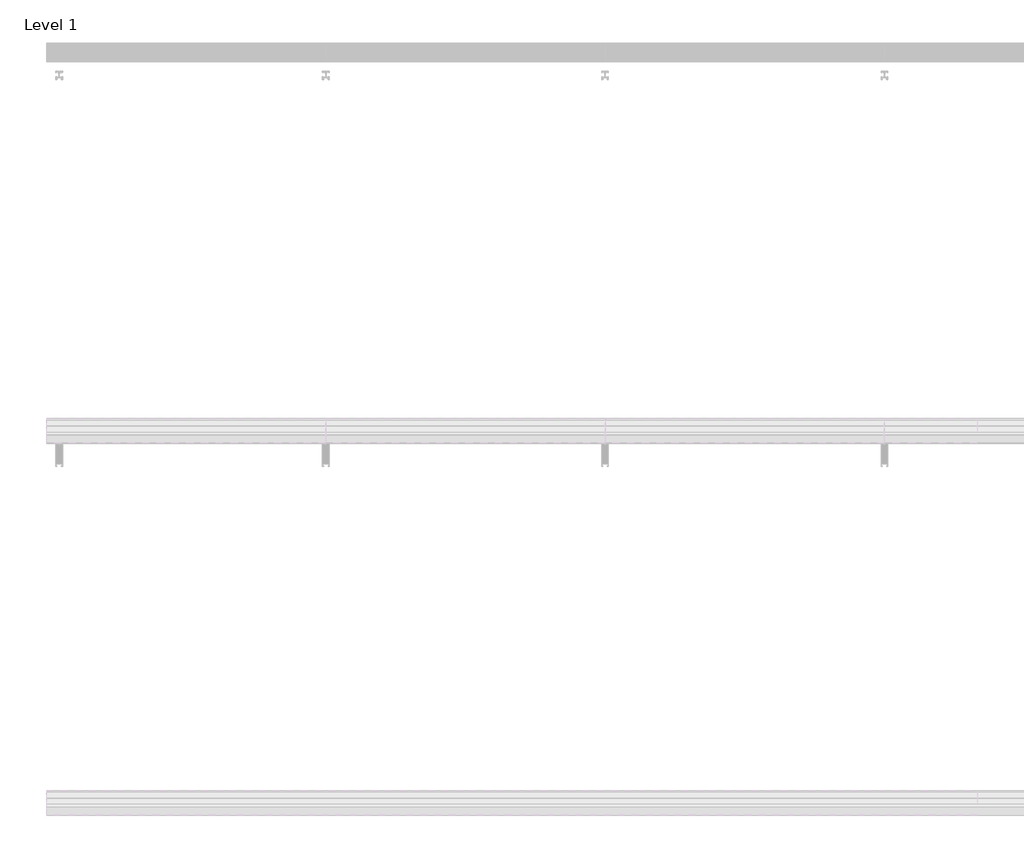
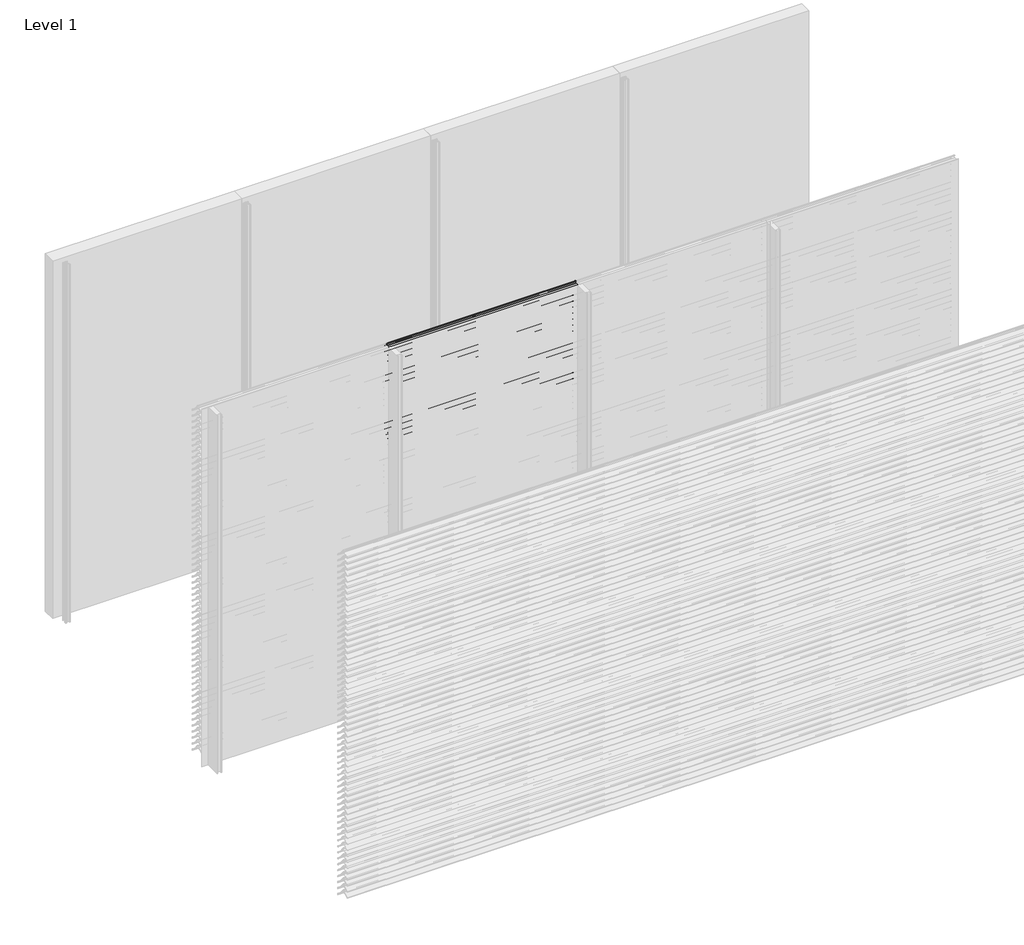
# One storey, part 27 of 173: 17 proxies.
"""IFC4 building model written with IfcOpenShell, lengths in millimetres."""

from ifc_helpers import new_model, si_unit, point, frame, frame_2d, origin, place, context, project, spatial, polyline, circle_curve, trimmed, segment, composite_curve, outline, extrude, element, save

model = new_model("IFC4")

# Units and contexts
model_context = context("Model", 3, world=origin())
ifc_project = project(units=[si_unit("LENGTHUNIT", "METRE", prefix="MILLI")], contexts=[model_context])

# Site, building, storey
site = spatial("IfcSite", under=ifc_project)
building = spatial("IfcBuilding", under=site)
storey = spatial("IfcBuildingStorey", under=building, Name="Level 1", Elevation=0.0)

# Proxies
placement = place(None, origin())
element("IfcBuildingElementProxy", 1, Name="Wall Sweeps", at=placement, inside=storey, context=model_context, shape_type="SweptSolid", body=[
    extrude(outline(composite_curve([segment(polyline([(-47998.0, 2959.1474905), (-47998.0, 2961.6227417)]), True, "CONTINUOUS"), segment(trimmed(circle_curve(frame_2d((-47951.2682172, 2916.2200208)), 65.1557103), [point((-47998.0, 2961.6227417))], [point((-47954.4014323, 2981.3003524))], False, "CARTESIAN"), True, "CONTINUOUS"), segment(polyline([(-47954.4014323, 2981.3003524), (-47934.8315836, 2981.3003524)]), True, "CONTINUOUS"), segment(trimmed(circle_curve(frame_2d((-47732.7329489, 3128.5533172)), 250.0545817), [point((-47934.8315836, 2981.3003524))], [point((-47941.4452143, 2990.8344583))], False, "CARTESIAN"), True, "CONTINUOUS"), segment(trimmed(circle_curve(frame_2d((-47953.2981792, 2985.1737835)), 13.1352966), [point((-47941.4452143, 2990.8344583))], [point((-47953.8171475, 2998.298824))], True, "CARTESIAN"), True, "CONTINUOUS"), segment(polyline([(-47953.8171475, 2998.298824), (-47953.8171475, 3000.0)]), True, "CONTINUOUS"), segment(trimmed(circle_curve(frame_2d((-47953.2981792, 2985.1737835)), 14.8352966), [point((-47953.8171475, 3000.0))], [point((-47939.9637661, 2991.6760487))], False, "CARTESIAN"), True, "CONTINUOUS"), segment(trimmed(circle_curve(frame_2d((-47732.7329489, 3128.5533172)), 248.3545817), [point((-47939.9637661, 2991.6760487))], [point((-47873.8787895, 2924.2059416))], True, "CARTESIAN"), True, "CONTINUOUS"), segment(trimmed(circle_curve(frame_2d((-47883.8147537, 2911.6649442)), 16.0), [point((-47873.8787895, 2924.2059416))], [point((-47867.8648347, 2910.4))], False, "CARTESIAN"), True, "CONTINUOUS"), segment(polyline([(-47867.8648347, 2910.4), (-47869.6712069, 2910.4)]), True, "CONTINUOUS"), segment(trimmed(circle_curve(frame_2d((-47883.8147537, 2911.6649442)), 14.2), [point((-47869.6712069, 2910.4))], [point((-47874.9518628, 2922.7594998))], True, "CARTESIAN"), True, "CONTINUOUS"), segment(trimmed(circle_curve(frame_2d((-47732.7329489, 3128.5533172)), 250.1545817), [point((-47874.9518628, 2922.7594998))], [point((-47933.7064024, 2979.6003524))], False, "CARTESIAN"), True, "CONTINUOUS"), segment(polyline([(-47933.7064024, 2979.6003524), (-47954.3602632, 2979.6003524)]), True, "CONTINUOUS"), segment(trimmed(circle_curve(frame_2d((-47951.2682172, 2916.2200208)), 63.4557103), [point((-47954.3602632, 2979.6003524))], [point((-47998.0, 2959.1474905))], True, "CARTESIAN"), True, "CONTINUOUS")], self_intersect=False)), frame((1500.0, 0.0, 0.0), z_axis=(1.0, 0.0, 0.0), x_axis=(0.0, 1.0, 0.0)), (0.0, 0.0, 1.0), 1500.0),
])
element("IfcBuildingElementProxy", 2, Name="Wall Sweeps", at=placement, inside=storey, context=model_context, shape_type="SweptSolid", body=[
    extrude(outline(composite_curve([segment(polyline([(-47998.0, 2909.1474905), (-47998.0, 2911.6227417)]), True, "CONTINUOUS"), segment(trimmed(circle_curve(frame_2d((-47951.2682172, 2866.2200208)), 65.1557103), [point((-47998.0, 2911.6227417))], [point((-47954.4014323, 2931.3003524))], False, "CARTESIAN"), True, "CONTINUOUS"), segment(polyline([(-47954.4014323, 2931.3003524), (-47934.8315836, 2931.3003524)]), True, "CONTINUOUS"), segment(trimmed(circle_curve(frame_2d((-47732.7329489, 3078.5533172)), 250.0545817), [point((-47934.8315836, 2931.3003524))], [point((-47941.4452143, 2940.8344583))], False, "CARTESIAN"), True, "CONTINUOUS"), segment(trimmed(circle_curve(frame_2d((-47953.2981792, 2935.1737835)), 13.1352966), [point((-47941.4452143, 2940.8344583))], [point((-47953.8171475, 2948.298824))], True, "CARTESIAN"), True, "CONTINUOUS"), segment(polyline([(-47953.8171475, 2948.298824), (-47953.8171475, 2950.0)]), True, "CONTINUOUS"), segment(trimmed(circle_curve(frame_2d((-47953.2981792, 2935.1737835)), 14.8352966), [point((-47953.8171475, 2950.0))], [point((-47939.9637661, 2941.6760487))], False, "CARTESIAN"), True, "CONTINUOUS"), segment(trimmed(circle_curve(frame_2d((-47732.7329489, 3078.5533172)), 248.3545817), [point((-47939.9637661, 2941.6760487))], [point((-47873.8787895, 2874.2059416))], True, "CARTESIAN"), True, "CONTINUOUS"), segment(trimmed(circle_curve(frame_2d((-47883.8147537, 2861.6649442)), 16.0), [point((-47873.8787895, 2874.2059416))], [point((-47867.8648347, 2860.4))], False, "CARTESIAN"), True, "CONTINUOUS"), segment(polyline([(-47867.8648347, 2860.4), (-47869.6712069, 2860.4)]), True, "CONTINUOUS"), segment(trimmed(circle_curve(frame_2d((-47883.8147537, 2861.6649442)), 14.2), [point((-47869.6712069, 2860.4))], [point((-47874.9518628, 2872.7594998))], True, "CARTESIAN"), True, "CONTINUOUS"), segment(trimmed(circle_curve(frame_2d((-47732.7329489, 3078.5533172)), 250.1545817), [point((-47874.9518628, 2872.7594998))], [point((-47933.7064024, 2929.6003524))], False, "CARTESIAN"), True, "CONTINUOUS"), segment(polyline([(-47933.7064024, 2929.6003524), (-47954.3602632, 2929.6003524)]), True, "CONTINUOUS"), segment(trimmed(circle_curve(frame_2d((-47951.2682172, 2866.2200208)), 63.4557103), [point((-47954.3602632, 2929.6003524))], [point((-47998.0, 2909.1474905))], True, "CARTESIAN"), True, "CONTINUOUS")], self_intersect=False)), frame((1500.0, 0.0, 0.0), z_axis=(1.0, 0.0, 0.0), x_axis=(0.0, 1.0, 0.0)), (0.0, 0.0, 1.0), 1500.0),
])
element("IfcBuildingElementProxy", 3, Name="Wall Sweeps", at=placement, inside=storey, context=model_context, shape_type="SweptSolid", body=[
    extrude(outline(composite_curve([segment(polyline([(-47998.0, 2859.1474905), (-47998.0, 2861.6227417)]), True, "CONTINUOUS"), segment(trimmed(circle_curve(frame_2d((-47951.2682172, 2816.2200208)), 65.1557103), [point((-47998.0, 2861.6227417))], [point((-47954.4014323, 2881.3003524))], False, "CARTESIAN"), True, "CONTINUOUS"), segment(polyline([(-47954.4014323, 2881.3003524), (-47934.8315836, 2881.3003524)]), True, "CONTINUOUS"), segment(trimmed(circle_curve(frame_2d((-47732.7329489, 3028.5533172)), 250.0545817), [point((-47934.8315836, 2881.3003524))], [point((-47941.4452143, 2890.8344583))], False, "CARTESIAN"), True, "CONTINUOUS"), segment(trimmed(circle_curve(frame_2d((-47953.2981792, 2885.1737835)), 13.1352966), [point((-47941.4452143, 2890.8344583))], [point((-47953.8171475, 2898.298824))], True, "CARTESIAN"), True, "CONTINUOUS"), segment(polyline([(-47953.8171475, 2898.298824), (-47953.8171475, 2900.0)]), True, "CONTINUOUS"), segment(trimmed(circle_curve(frame_2d((-47953.2981792, 2885.1737835)), 14.8352966), [point((-47953.8171475, 2900.0))], [point((-47939.9637661, 2891.6760487))], False, "CARTESIAN"), True, "CONTINUOUS"), segment(trimmed(circle_curve(frame_2d((-47732.7329489, 3028.5533172)), 248.3545817), [point((-47939.9637661, 2891.6760487))], [point((-47873.8787895, 2824.2059416))], True, "CARTESIAN"), True, "CONTINUOUS"), segment(trimmed(circle_curve(frame_2d((-47883.8147537, 2811.6649442)), 16.0), [point((-47873.8787895, 2824.2059416))], [point((-47867.8648347, 2810.4))], False, "CARTESIAN"), True, "CONTINUOUS"), segment(polyline([(-47867.8648347, 2810.4), (-47869.6712069, 2810.4)]), True, "CONTINUOUS"), segment(trimmed(circle_curve(frame_2d((-47883.8147537, 2811.6649442)), 14.2), [point((-47869.6712069, 2810.4))], [point((-47874.9518628, 2822.7594998))], True, "CARTESIAN"), True, "CONTINUOUS"), segment(trimmed(circle_curve(frame_2d((-47732.7329489, 3028.5533172)), 250.1545817), [point((-47874.9518628, 2822.7594998))], [point((-47933.7064024, 2879.6003524))], False, "CARTESIAN"), True, "CONTINUOUS"), segment(polyline([(-47933.7064024, 2879.6003524), (-47954.3602632, 2879.6003524)]), True, "CONTINUOUS"), segment(trimmed(circle_curve(frame_2d((-47951.2682172, 2816.2200208)), 63.4557103), [point((-47954.3602632, 2879.6003524))], [point((-47998.0, 2859.1474905))], True, "CARTESIAN"), True, "CONTINUOUS")], self_intersect=False)), frame((1500.0, 0.0, 0.0), z_axis=(1.0, 0.0, 0.0), x_axis=(0.0, 1.0, 0.0)), (0.0, 0.0, 1.0), 1500.0),
])
element("IfcBuildingElementProxy", 4, Name="Wall Sweeps", at=placement, inside=storey, context=model_context, shape_type="SweptSolid", body=[
    extrude(outline(composite_curve([segment(polyline([(-47998.0, 2809.1474905), (-47998.0, 2811.6227417)]), True, "CONTINUOUS"), segment(trimmed(circle_curve(frame_2d((-47951.2682172, 2766.2200208)), 65.1557103), [point((-47998.0, 2811.6227417))], [point((-47954.4014323, 2831.3003524))], False, "CARTESIAN"), True, "CONTINUOUS"), segment(polyline([(-47954.4014323, 2831.3003524), (-47934.8315836, 2831.3003524)]), True, "CONTINUOUS"), segment(trimmed(circle_curve(frame_2d((-47732.7329489, 2978.5533172)), 250.0545817), [point((-47934.8315836, 2831.3003524))], [point((-47941.4452143, 2840.8344583))], False, "CARTESIAN"), True, "CONTINUOUS"), segment(trimmed(circle_curve(frame_2d((-47953.2981792, 2835.1737835)), 13.1352966), [point((-47941.4452143, 2840.8344583))], [point((-47953.8171475, 2848.298824))], True, "CARTESIAN"), True, "CONTINUOUS"), segment(polyline([(-47953.8171475, 2848.298824), (-47953.8171475, 2850.0)]), True, "CONTINUOUS"), segment(trimmed(circle_curve(frame_2d((-47953.2981792, 2835.1737835)), 14.8352966), [point((-47953.8171475, 2850.0))], [point((-47939.9637661, 2841.6760487))], False, "CARTESIAN"), True, "CONTINUOUS"), segment(trimmed(circle_curve(frame_2d((-47732.7329489, 2978.5533172)), 248.3545817), [point((-47939.9637661, 2841.6760487))], [point((-47873.8787895, 2774.2059416))], True, "CARTESIAN"), True, "CONTINUOUS"), segment(trimmed(circle_curve(frame_2d((-47883.8147537, 2761.6649442)), 16.0), [point((-47873.8787895, 2774.2059416))], [point((-47867.8648347, 2760.4))], False, "CARTESIAN"), True, "CONTINUOUS"), segment(polyline([(-47867.8648347, 2760.4), (-47869.6712069, 2760.4)]), True, "CONTINUOUS"), segment(trimmed(circle_curve(frame_2d((-47883.8147537, 2761.6649442)), 14.2), [point((-47869.6712069, 2760.4))], [point((-47874.9518628, 2772.7594998))], True, "CARTESIAN"), True, "CONTINUOUS"), segment(trimmed(circle_curve(frame_2d((-47732.7329489, 2978.5533172)), 250.1545817), [point((-47874.9518628, 2772.7594998))], [point((-47933.7064024, 2829.6003524))], False, "CARTESIAN"), True, "CONTINUOUS"), segment(polyline([(-47933.7064024, 2829.6003524), (-47954.3602632, 2829.6003524)]), True, "CONTINUOUS"), segment(trimmed(circle_curve(frame_2d((-47951.2682172, 2766.2200208)), 63.4557103), [point((-47954.3602632, 2829.6003524))], [point((-47998.0, 2809.1474905))], True, "CARTESIAN"), True, "CONTINUOUS")], self_intersect=False)), frame((1500.0, 0.0, 0.0), z_axis=(1.0, 0.0, 0.0), x_axis=(0.0, 1.0, 0.0)), (0.0, 0.0, 1.0), 1500.0),
])
element("IfcBuildingElementProxy", 5, Name="Wall Sweeps", at=placement, inside=storey, context=model_context, shape_type="SweptSolid", body=[
    extrude(outline(composite_curve([segment(polyline([(-47998.0, 2759.1474905), (-47998.0, 2761.6227417)]), True, "CONTINUOUS"), segment(trimmed(circle_curve(frame_2d((-47951.2682172, 2716.2200208)), 65.1557103), [point((-47998.0, 2761.6227417))], [point((-47954.4014323, 2781.3003524))], False, "CARTESIAN"), True, "CONTINUOUS"), segment(polyline([(-47954.4014323, 2781.3003524), (-47934.8315836, 2781.3003524)]), True, "CONTINUOUS"), segment(trimmed(circle_curve(frame_2d((-47732.7329489, 2928.5533172)), 250.0545817), [point((-47934.8315836, 2781.3003524))], [point((-47941.4452143, 2790.8344583))], False, "CARTESIAN"), True, "CONTINUOUS"), segment(trimmed(circle_curve(frame_2d((-47953.2981792, 2785.1737835)), 13.1352966), [point((-47941.4452143, 2790.8344583))], [point((-47953.8171475, 2798.298824))], True, "CARTESIAN"), True, "CONTINUOUS"), segment(polyline([(-47953.8171475, 2798.298824), (-47953.8171475, 2800.0)]), True, "CONTINUOUS"), segment(trimmed(circle_curve(frame_2d((-47953.2981792, 2785.1737835)), 14.8352966), [point((-47953.8171475, 2800.0))], [point((-47939.9637661, 2791.6760487))], False, "CARTESIAN"), True, "CONTINUOUS"), segment(trimmed(circle_curve(frame_2d((-47732.7329489, 2928.5533172)), 248.3545817), [point((-47939.9637661, 2791.6760487))], [point((-47873.8787895, 2724.2059416))], True, "CARTESIAN"), True, "CONTINUOUS"), segment(trimmed(circle_curve(frame_2d((-47883.8147537, 2711.6649442)), 16.0), [point((-47873.8787895, 2724.2059416))], [point((-47867.8648347, 2710.4))], False, "CARTESIAN"), True, "CONTINUOUS"), segment(polyline([(-47867.8648347, 2710.4), (-47869.6712069, 2710.4)]), True, "CONTINUOUS"), segment(trimmed(circle_curve(frame_2d((-47883.8147537, 2711.6649442)), 14.2), [point((-47869.6712069, 2710.4))], [point((-47874.9518628, 2722.7594998))], True, "CARTESIAN"), True, "CONTINUOUS"), segment(trimmed(circle_curve(frame_2d((-47732.7329489, 2928.5533172)), 250.1545817), [point((-47874.9518628, 2722.7594998))], [point((-47933.7064024, 2779.6003524))], False, "CARTESIAN"), True, "CONTINUOUS"), segment(polyline([(-47933.7064024, 2779.6003524), (-47954.3602632, 2779.6003524)]), True, "CONTINUOUS"), segment(trimmed(circle_curve(frame_2d((-47951.2682172, 2716.2200208)), 63.4557103), [point((-47954.3602632, 2779.6003524))], [point((-47998.0, 2759.1474905))], True, "CARTESIAN"), True, "CONTINUOUS")], self_intersect=False)), frame((1500.0, 0.0, 0.0), z_axis=(1.0, 0.0, 0.0), x_axis=(0.0, 1.0, 0.0)), (0.0, 0.0, 1.0), 1500.0),
])
element("IfcBuildingElementProxy", 6, Name="Wall Sweeps", at=placement, inside=storey, context=model_context, shape_type="SweptSolid", body=[
    extrude(outline(composite_curve([segment(polyline([(-47998.0, 2709.1474905), (-47998.0, 2711.6227417)]), True, "CONTINUOUS"), segment(trimmed(circle_curve(frame_2d((-47951.2682172, 2666.2200208)), 65.1557103), [point((-47998.0, 2711.6227417))], [point((-47954.4014323, 2731.3003524))], False, "CARTESIAN"), True, "CONTINUOUS"), segment(polyline([(-47954.4014323, 2731.3003524), (-47934.8315836, 2731.3003524)]), True, "CONTINUOUS"), segment(trimmed(circle_curve(frame_2d((-47732.7329489, 2878.5533172)), 250.0545817), [point((-47934.8315836, 2731.3003524))], [point((-47941.4452143, 2740.8344583))], False, "CARTESIAN"), True, "CONTINUOUS"), segment(trimmed(circle_curve(frame_2d((-47953.2981792, 2735.1737835)), 13.1352966), [point((-47941.4452143, 2740.8344583))], [point((-47953.8171475, 2748.298824))], True, "CARTESIAN"), True, "CONTINUOUS"), segment(polyline([(-47953.8171475, 2748.298824), (-47953.8171475, 2750.0)]), True, "CONTINUOUS"), segment(trimmed(circle_curve(frame_2d((-47953.2981792, 2735.1737835)), 14.8352966), [point((-47953.8171475, 2750.0))], [point((-47939.9637661, 2741.6760487))], False, "CARTESIAN"), True, "CONTINUOUS"), segment(trimmed(circle_curve(frame_2d((-47732.7329489, 2878.5533172)), 248.3545817), [point((-47939.9637661, 2741.6760487))], [point((-47873.8787895, 2674.2059416))], True, "CARTESIAN"), True, "CONTINUOUS"), segment(trimmed(circle_curve(frame_2d((-47883.8147537, 2661.6649442)), 16.0), [point((-47873.8787895, 2674.2059416))], [point((-47867.8648347, 2660.4))], False, "CARTESIAN"), True, "CONTINUOUS"), segment(polyline([(-47867.8648347, 2660.4), (-47869.6712069, 2660.4)]), True, "CONTINUOUS"), segment(trimmed(circle_curve(frame_2d((-47883.8147537, 2661.6649442)), 14.2), [point((-47869.6712069, 2660.4))], [point((-47874.9518628, 2672.7594998))], True, "CARTESIAN"), True, "CONTINUOUS"), segment(trimmed(circle_curve(frame_2d((-47732.7329489, 2878.5533172)), 250.1545817), [point((-47874.9518628, 2672.7594998))], [point((-47933.7064024, 2729.6003524))], False, "CARTESIAN"), True, "CONTINUOUS"), segment(polyline([(-47933.7064024, 2729.6003524), (-47954.3602632, 2729.6003524)]), True, "CONTINUOUS"), segment(trimmed(circle_curve(frame_2d((-47951.2682172, 2666.2200208)), 63.4557103), [point((-47954.3602632, 2729.6003524))], [point((-47998.0, 2709.1474905))], True, "CARTESIAN"), True, "CONTINUOUS")], self_intersect=False)), frame((1500.0, 0.0, 0.0), z_axis=(1.0, 0.0, 0.0), x_axis=(0.0, 1.0, 0.0)), (0.0, 0.0, 1.0), 1500.0),
])
element("IfcBuildingElementProxy", 7, Name="Wall Sweeps", at=placement, inside=storey, context=model_context, shape_type="SweptSolid", body=[
    extrude(outline(composite_curve([segment(polyline([(-47998.0, 2659.1474905), (-47998.0, 2661.6227417)]), True, "CONTINUOUS"), segment(trimmed(circle_curve(frame_2d((-47951.2682172, 2616.2200208)), 65.1557103), [point((-47998.0, 2661.6227417))], [point((-47954.4014323, 2681.3003524))], False, "CARTESIAN"), True, "CONTINUOUS"), segment(polyline([(-47954.4014323, 2681.3003524), (-47934.8315836, 2681.3003524)]), True, "CONTINUOUS"), segment(trimmed(circle_curve(frame_2d((-47732.7329489, 2828.5533172)), 250.0545817), [point((-47934.8315836, 2681.3003524))], [point((-47941.4452143, 2690.8344583))], False, "CARTESIAN"), True, "CONTINUOUS"), segment(trimmed(circle_curve(frame_2d((-47953.2981792, 2685.1737835)), 13.1352966), [point((-47941.4452143, 2690.8344583))], [point((-47953.8171475, 2698.298824))], True, "CARTESIAN"), True, "CONTINUOUS"), segment(polyline([(-47953.8171475, 2698.298824), (-47953.8171475, 2700.0)]), True, "CONTINUOUS"), segment(trimmed(circle_curve(frame_2d((-47953.2981792, 2685.1737835)), 14.8352966), [point((-47953.8171475, 2700.0))], [point((-47939.9637661, 2691.6760487))], False, "CARTESIAN"), True, "CONTINUOUS"), segment(trimmed(circle_curve(frame_2d((-47732.7329489, 2828.5533172)), 248.3545817), [point((-47939.9637661, 2691.6760487))], [point((-47873.8787895, 2624.2059416))], True, "CARTESIAN"), True, "CONTINUOUS"), segment(trimmed(circle_curve(frame_2d((-47883.8147537, 2611.6649442)), 16.0), [point((-47873.8787895, 2624.2059416))], [point((-47867.8648347, 2610.4))], False, "CARTESIAN"), True, "CONTINUOUS"), segment(polyline([(-47867.8648347, 2610.4), (-47869.6712069, 2610.4)]), True, "CONTINUOUS"), segment(trimmed(circle_curve(frame_2d((-47883.8147537, 2611.6649442)), 14.2), [point((-47869.6712069, 2610.4))], [point((-47874.9518628, 2622.7594998))], True, "CARTESIAN"), True, "CONTINUOUS"), segment(trimmed(circle_curve(frame_2d((-47732.7329489, 2828.5533172)), 250.1545817), [point((-47874.9518628, 2622.7594998))], [point((-47933.7064024, 2679.6003524))], False, "CARTESIAN"), True, "CONTINUOUS"), segment(polyline([(-47933.7064024, 2679.6003524), (-47954.3602632, 2679.6003524)]), True, "CONTINUOUS"), segment(trimmed(circle_curve(frame_2d((-47951.2682172, 2616.2200208)), 63.4557103), [point((-47954.3602632, 2679.6003524))], [point((-47998.0, 2659.1474905))], True, "CARTESIAN"), True, "CONTINUOUS")], self_intersect=False)), frame((1500.0, 0.0, 0.0), z_axis=(1.0, 0.0, 0.0), x_axis=(0.0, 1.0, 0.0)), (0.0, 0.0, 1.0), 1500.0),
])
element("IfcBuildingElementProxy", 8, Name="Wall Sweeps", at=placement, inside=storey, context=model_context, shape_type="SweptSolid", body=[
    extrude(outline(composite_curve([segment(polyline([(-47998.0, 2609.1474905), (-47998.0, 2611.6227417)]), True, "CONTINUOUS"), segment(trimmed(circle_curve(frame_2d((-47951.2682172, 2566.2200208)), 65.1557103), [point((-47998.0, 2611.6227417))], [point((-47954.4014323, 2631.3003524))], False, "CARTESIAN"), True, "CONTINUOUS"), segment(polyline([(-47954.4014323, 2631.3003524), (-47934.8315836, 2631.3003524)]), True, "CONTINUOUS"), segment(trimmed(circle_curve(frame_2d((-47732.7329489, 2778.5533172)), 250.0545817), [point((-47934.8315836, 2631.3003524))], [point((-47941.4452143, 2640.8344583))], False, "CARTESIAN"), True, "CONTINUOUS"), segment(trimmed(circle_curve(frame_2d((-47953.2981792, 2635.1737835)), 13.1352966), [point((-47941.4452143, 2640.8344583))], [point((-47953.8171475, 2648.298824))], True, "CARTESIAN"), True, "CONTINUOUS"), segment(polyline([(-47953.8171475, 2648.298824), (-47953.8171475, 2650.0)]), True, "CONTINUOUS"), segment(trimmed(circle_curve(frame_2d((-47953.2981792, 2635.1737835)), 14.8352966), [point((-47953.8171475, 2650.0))], [point((-47939.9637661, 2641.6760487))], False, "CARTESIAN"), True, "CONTINUOUS"), segment(trimmed(circle_curve(frame_2d((-47732.7329489, 2778.5533172)), 248.3545817), [point((-47939.9637661, 2641.6760487))], [point((-47873.8787895, 2574.2059416))], True, "CARTESIAN"), True, "CONTINUOUS"), segment(trimmed(circle_curve(frame_2d((-47883.8147537, 2561.6649442)), 16.0), [point((-47873.8787895, 2574.2059416))], [point((-47867.8648347, 2560.4))], False, "CARTESIAN"), True, "CONTINUOUS"), segment(polyline([(-47867.8648347, 2560.4), (-47869.6712069, 2560.4)]), True, "CONTINUOUS"), segment(trimmed(circle_curve(frame_2d((-47883.8147537, 2561.6649442)), 14.2), [point((-47869.6712069, 2560.4))], [point((-47874.9518628, 2572.7594998))], True, "CARTESIAN"), True, "CONTINUOUS"), segment(trimmed(circle_curve(frame_2d((-47732.7329489, 2778.5533172)), 250.1545817), [point((-47874.9518628, 2572.7594998))], [point((-47933.7064024, 2629.6003524))], False, "CARTESIAN"), True, "CONTINUOUS"), segment(polyline([(-47933.7064024, 2629.6003524), (-47954.3602632, 2629.6003524)]), True, "CONTINUOUS"), segment(trimmed(circle_curve(frame_2d((-47951.2682172, 2566.2200208)), 63.4557103), [point((-47954.3602632, 2629.6003524))], [point((-47998.0, 2609.1474905))], True, "CARTESIAN"), True, "CONTINUOUS")], self_intersect=False)), frame((1500.0, 0.0, 0.0), z_axis=(1.0, 0.0, 0.0), x_axis=(0.0, 1.0, 0.0)), (0.0, 0.0, 1.0), 1500.0),
])
element("IfcBuildingElementProxy", 9, Name="Wall Sweeps", at=placement, inside=storey, context=model_context, shape_type="SweptSolid", body=[
    extrude(outline(composite_curve([segment(polyline([(-47998.0, 2559.1474905), (-47998.0, 2561.6227417)]), True, "CONTINUOUS"), segment(trimmed(circle_curve(frame_2d((-47951.2682172, 2516.2200208)), 65.1557103), [point((-47998.0, 2561.6227417))], [point((-47954.4014323, 2581.3003524))], False, "CARTESIAN"), True, "CONTINUOUS"), segment(polyline([(-47954.4014323, 2581.3003524), (-47934.8315836, 2581.3003524)]), True, "CONTINUOUS"), segment(trimmed(circle_curve(frame_2d((-47732.7329489, 2728.5533172)), 250.0545817), [point((-47934.8315836, 2581.3003524))], [point((-47941.4452143, 2590.8344583))], False, "CARTESIAN"), True, "CONTINUOUS"), segment(trimmed(circle_curve(frame_2d((-47953.2981792, 2585.1737835)), 13.1352966), [point((-47941.4452143, 2590.8344583))], [point((-47953.8171475, 2598.298824))], True, "CARTESIAN"), True, "CONTINUOUS"), segment(polyline([(-47953.8171475, 2598.298824), (-47953.8171475, 2600.0)]), True, "CONTINUOUS"), segment(trimmed(circle_curve(frame_2d((-47953.2981792, 2585.1737835)), 14.8352966), [point((-47953.8171475, 2600.0))], [point((-47939.9637661, 2591.6760487))], False, "CARTESIAN"), True, "CONTINUOUS"), segment(trimmed(circle_curve(frame_2d((-47732.7329489, 2728.5533172)), 248.3545817), [point((-47939.9637661, 2591.6760487))], [point((-47873.8787895, 2524.2059416))], True, "CARTESIAN"), True, "CONTINUOUS"), segment(trimmed(circle_curve(frame_2d((-47883.8147537, 2511.6649442)), 16.0), [point((-47873.8787895, 2524.2059416))], [point((-47867.8648347, 2510.4))], False, "CARTESIAN"), True, "CONTINUOUS"), segment(polyline([(-47867.8648347, 2510.4), (-47869.6712069, 2510.4)]), True, "CONTINUOUS"), segment(trimmed(circle_curve(frame_2d((-47883.8147537, 2511.6649442)), 14.2), [point((-47869.6712069, 2510.4))], [point((-47874.9518628, 2522.7594998))], True, "CARTESIAN"), True, "CONTINUOUS"), segment(trimmed(circle_curve(frame_2d((-47732.7329489, 2728.5533172)), 250.1545817), [point((-47874.9518628, 2522.7594998))], [point((-47933.7064024, 2579.6003524))], False, "CARTESIAN"), True, "CONTINUOUS"), segment(polyline([(-47933.7064024, 2579.6003524), (-47954.3602632, 2579.6003524)]), True, "CONTINUOUS"), segment(trimmed(circle_curve(frame_2d((-47951.2682172, 2516.2200208)), 63.4557103), [point((-47954.3602632, 2579.6003524))], [point((-47998.0, 2559.1474905))], True, "CARTESIAN"), True, "CONTINUOUS")], self_intersect=False)), frame((1500.0, 0.0, 0.0), z_axis=(1.0, 0.0, 0.0), x_axis=(0.0, 1.0, 0.0)), (0.0, 0.0, 1.0), 1500.0),
])
element("IfcBuildingElementProxy", 10, Name="Wall Sweeps", at=placement, inside=storey, context=model_context, shape_type="SweptSolid", body=[
    extrude(outline(composite_curve([segment(polyline([(-47998.0, 2509.1474905), (-47998.0, 2511.6227417)]), True, "CONTINUOUS"), segment(trimmed(circle_curve(frame_2d((-47951.2682172, 2466.2200208)), 65.1557103), [point((-47998.0, 2511.6227417))], [point((-47954.4014323, 2531.3003524))], False, "CARTESIAN"), True, "CONTINUOUS"), segment(polyline([(-47954.4014323, 2531.3003524), (-47934.8315836, 2531.3003524)]), True, "CONTINUOUS"), segment(trimmed(circle_curve(frame_2d((-47732.7329489, 2678.5533172)), 250.0545817), [point((-47934.8315836, 2531.3003524))], [point((-47941.4452143, 2540.8344583))], False, "CARTESIAN"), True, "CONTINUOUS"), segment(trimmed(circle_curve(frame_2d((-47953.2981792, 2535.1737835)), 13.1352966), [point((-47941.4452143, 2540.8344583))], [point((-47953.8171475, 2548.298824))], True, "CARTESIAN"), True, "CONTINUOUS"), segment(polyline([(-47953.8171475, 2548.298824), (-47953.8171475, 2550.0)]), True, "CONTINUOUS"), segment(trimmed(circle_curve(frame_2d((-47953.2981792, 2535.1737835)), 14.8352966), [point((-47953.8171475, 2550.0))], [point((-47939.9637661, 2541.6760487))], False, "CARTESIAN"), True, "CONTINUOUS"), segment(trimmed(circle_curve(frame_2d((-47732.7329489, 2678.5533172)), 248.3545817), [point((-47939.9637661, 2541.6760487))], [point((-47873.8787895, 2474.2059416))], True, "CARTESIAN"), True, "CONTINUOUS"), segment(trimmed(circle_curve(frame_2d((-47883.8147537, 2461.6649442)), 16.0), [point((-47873.8787895, 2474.2059416))], [point((-47867.8648347, 2460.4))], False, "CARTESIAN"), True, "CONTINUOUS"), segment(polyline([(-47867.8648347, 2460.4), (-47869.6712069, 2460.4)]), True, "CONTINUOUS"), segment(trimmed(circle_curve(frame_2d((-47883.8147537, 2461.6649442)), 14.2), [point((-47869.6712069, 2460.4))], [point((-47874.9518628, 2472.7594998))], True, "CARTESIAN"), True, "CONTINUOUS"), segment(trimmed(circle_curve(frame_2d((-47732.7329489, 2678.5533172)), 250.1545817), [point((-47874.9518628, 2472.7594998))], [point((-47933.7064024, 2529.6003524))], False, "CARTESIAN"), True, "CONTINUOUS"), segment(polyline([(-47933.7064024, 2529.6003524), (-47954.3602632, 2529.6003524)]), True, "CONTINUOUS"), segment(trimmed(circle_curve(frame_2d((-47951.2682172, 2466.2200208)), 63.4557103), [point((-47954.3602632, 2529.6003524))], [point((-47998.0, 2509.1474905))], True, "CARTESIAN"), True, "CONTINUOUS")], self_intersect=False)), frame((1500.0, 0.0, 0.0), z_axis=(1.0, 0.0, 0.0), x_axis=(0.0, 1.0, 0.0)), (0.0, 0.0, 1.0), 1500.0),
])
element("IfcBuildingElementProxy", 11, Name="Wall Sweeps", at=placement, inside=storey, context=model_context, shape_type="SweptSolid", body=[
    extrude(outline(composite_curve([segment(polyline([(-47998.0, 2459.1474905), (-47998.0, 2461.6227417)]), True, "CONTINUOUS"), segment(trimmed(circle_curve(frame_2d((-47951.2682172, 2416.2200208)), 65.1557103), [point((-47998.0, 2461.6227417))], [point((-47954.4014323, 2481.3003524))], False, "CARTESIAN"), True, "CONTINUOUS"), segment(polyline([(-47954.4014323, 2481.3003524), (-47934.8315836, 2481.3003524)]), True, "CONTINUOUS"), segment(trimmed(circle_curve(frame_2d((-47732.7329489, 2628.5533172)), 250.0545817), [point((-47934.8315836, 2481.3003524))], [point((-47941.4452143, 2490.8344583))], False, "CARTESIAN"), True, "CONTINUOUS"), segment(trimmed(circle_curve(frame_2d((-47953.2981792, 2485.1737835)), 13.1352966), [point((-47941.4452143, 2490.8344583))], [point((-47953.8171475, 2498.298824))], True, "CARTESIAN"), True, "CONTINUOUS"), segment(polyline([(-47953.8171475, 2498.298824), (-47953.8171475, 2500.0)]), True, "CONTINUOUS"), segment(trimmed(circle_curve(frame_2d((-47953.2981792, 2485.1737835)), 14.8352966), [point((-47953.8171475, 2500.0))], [point((-47939.9637661, 2491.6760487))], False, "CARTESIAN"), True, "CONTINUOUS"), segment(trimmed(circle_curve(frame_2d((-47732.7329489, 2628.5533172)), 248.3545817), [point((-47939.9637661, 2491.6760487))], [point((-47873.8787895, 2424.2059416))], True, "CARTESIAN"), True, "CONTINUOUS"), segment(trimmed(circle_curve(frame_2d((-47883.8147537, 2411.6649442)), 16.0), [point((-47873.8787895, 2424.2059416))], [point((-47867.8648347, 2410.4))], False, "CARTESIAN"), True, "CONTINUOUS"), segment(polyline([(-47867.8648347, 2410.4), (-47869.6712069, 2410.4)]), True, "CONTINUOUS"), segment(trimmed(circle_curve(frame_2d((-47883.8147537, 2411.6649442)), 14.2), [point((-47869.6712069, 2410.4))], [point((-47874.9518628, 2422.7594998))], True, "CARTESIAN"), True, "CONTINUOUS"), segment(trimmed(circle_curve(frame_2d((-47732.7329489, 2628.5533172)), 250.1545817), [point((-47874.9518628, 2422.7594998))], [point((-47933.7064024, 2479.6003524))], False, "CARTESIAN"), True, "CONTINUOUS"), segment(polyline([(-47933.7064024, 2479.6003524), (-47954.3602632, 2479.6003524)]), True, "CONTINUOUS"), segment(trimmed(circle_curve(frame_2d((-47951.2682172, 2416.2200208)), 63.4557103), [point((-47954.3602632, 2479.6003524))], [point((-47998.0, 2459.1474905))], True, "CARTESIAN"), True, "CONTINUOUS")], self_intersect=False)), frame((1500.0, 0.0, 0.0), z_axis=(1.0, 0.0, 0.0), x_axis=(0.0, 1.0, 0.0)), (0.0, 0.0, 1.0), 1500.0),
])
element("IfcBuildingElementProxy", 12, Name="Wall Sweeps", at=placement, inside=storey, context=model_context, shape_type="SweptSolid", body=[
    extrude(outline(composite_curve([segment(polyline([(-47998.0, 2409.1474905), (-47998.0, 2411.6227417)]), True, "CONTINUOUS"), segment(trimmed(circle_curve(frame_2d((-47951.2682172, 2366.2200208)), 65.1557103), [point((-47998.0, 2411.6227417))], [point((-47954.4014323, 2431.3003524))], False, "CARTESIAN"), True, "CONTINUOUS"), segment(polyline([(-47954.4014323, 2431.3003524), (-47934.8315836, 2431.3003524)]), True, "CONTINUOUS"), segment(trimmed(circle_curve(frame_2d((-47732.7329489, 2578.5533172)), 250.0545817), [point((-47934.8315836, 2431.3003524))], [point((-47941.4452143, 2440.8344583))], False, "CARTESIAN"), True, "CONTINUOUS"), segment(trimmed(circle_curve(frame_2d((-47953.2981792, 2435.1737835)), 13.1352966), [point((-47941.4452143, 2440.8344583))], [point((-47953.8171475, 2448.298824))], True, "CARTESIAN"), True, "CONTINUOUS"), segment(polyline([(-47953.8171475, 2448.298824), (-47953.8171475, 2450.0)]), True, "CONTINUOUS"), segment(trimmed(circle_curve(frame_2d((-47953.2981792, 2435.1737835)), 14.8352966), [point((-47953.8171475, 2450.0))], [point((-47939.9637661, 2441.6760487))], False, "CARTESIAN"), True, "CONTINUOUS"), segment(trimmed(circle_curve(frame_2d((-47732.7329489, 2578.5533172)), 248.3545817), [point((-47939.9637661, 2441.6760487))], [point((-47873.8787895, 2374.2059416))], True, "CARTESIAN"), True, "CONTINUOUS"), segment(trimmed(circle_curve(frame_2d((-47883.8147537, 2361.6649442)), 16.0), [point((-47873.8787895, 2374.2059416))], [point((-47867.8648347, 2360.4))], False, "CARTESIAN"), True, "CONTINUOUS"), segment(polyline([(-47867.8648347, 2360.4), (-47869.6712069, 2360.4)]), True, "CONTINUOUS"), segment(trimmed(circle_curve(frame_2d((-47883.8147537, 2361.6649442)), 14.2), [point((-47869.6712069, 2360.4))], [point((-47874.9518628, 2372.7594998))], True, "CARTESIAN"), True, "CONTINUOUS"), segment(trimmed(circle_curve(frame_2d((-47732.7329489, 2578.5533172)), 250.1545817), [point((-47874.9518628, 2372.7594998))], [point((-47933.7064024, 2429.6003524))], False, "CARTESIAN"), True, "CONTINUOUS"), segment(polyline([(-47933.7064024, 2429.6003524), (-47954.3602632, 2429.6003524)]), True, "CONTINUOUS"), segment(trimmed(circle_curve(frame_2d((-47951.2682172, 2366.2200208)), 63.4557103), [point((-47954.3602632, 2429.6003524))], [point((-47998.0, 2409.1474905))], True, "CARTESIAN"), True, "CONTINUOUS")], self_intersect=False)), frame((1500.0, 0.0, 0.0), z_axis=(1.0, 0.0, 0.0), x_axis=(0.0, 1.0, 0.0)), (0.0, 0.0, 1.0), 1500.0),
])
element("IfcBuildingElementProxy", 13, Name="Wall Sweeps", at=placement, inside=storey, context=model_context, shape_type="SweptSolid", body=[
    extrude(outline(composite_curve([segment(polyline([(-47998.0, 2359.1474905), (-47998.0, 2361.6227417)]), True, "CONTINUOUS"), segment(trimmed(circle_curve(frame_2d((-47951.2682172, 2316.2200208)), 65.1557103), [point((-47998.0, 2361.6227417))], [point((-47954.4014323, 2381.3003524))], False, "CARTESIAN"), True, "CONTINUOUS"), segment(polyline([(-47954.4014323, 2381.3003524), (-47934.8315836, 2381.3003524)]), True, "CONTINUOUS"), segment(trimmed(circle_curve(frame_2d((-47732.7329489, 2528.5533172)), 250.0545817), [point((-47934.8315836, 2381.3003524))], [point((-47941.4452143, 2390.8344583))], False, "CARTESIAN"), True, "CONTINUOUS"), segment(trimmed(circle_curve(frame_2d((-47953.2981792, 2385.1737835)), 13.1352966), [point((-47941.4452143, 2390.8344583))], [point((-47953.8171475, 2398.298824))], True, "CARTESIAN"), True, "CONTINUOUS"), segment(polyline([(-47953.8171475, 2398.298824), (-47953.8171475, 2400.0)]), True, "CONTINUOUS"), segment(trimmed(circle_curve(frame_2d((-47953.2981792, 2385.1737835)), 14.8352966), [point((-47953.8171475, 2400.0))], [point((-47939.9637661, 2391.6760487))], False, "CARTESIAN"), True, "CONTINUOUS"), segment(trimmed(circle_curve(frame_2d((-47732.7329489, 2528.5533172)), 248.3545817), [point((-47939.9637661, 2391.6760487))], [point((-47873.8787895, 2324.2059416))], True, "CARTESIAN"), True, "CONTINUOUS"), segment(trimmed(circle_curve(frame_2d((-47883.8147537, 2311.6649442)), 16.0), [point((-47873.8787895, 2324.2059416))], [point((-47867.8648347, 2310.4))], False, "CARTESIAN"), True, "CONTINUOUS"), segment(polyline([(-47867.8648347, 2310.4), (-47869.6712069, 2310.4)]), True, "CONTINUOUS"), segment(trimmed(circle_curve(frame_2d((-47883.8147537, 2311.6649442)), 14.2), [point((-47869.6712069, 2310.4))], [point((-47874.9518628, 2322.7594998))], True, "CARTESIAN"), True, "CONTINUOUS"), segment(trimmed(circle_curve(frame_2d((-47732.7329489, 2528.5533172)), 250.1545817), [point((-47874.9518628, 2322.7594998))], [point((-47933.7064024, 2379.6003524))], False, "CARTESIAN"), True, "CONTINUOUS"), segment(polyline([(-47933.7064024, 2379.6003524), (-47954.3602632, 2379.6003524)]), True, "CONTINUOUS"), segment(trimmed(circle_curve(frame_2d((-47951.2682172, 2316.2200208)), 63.4557103), [point((-47954.3602632, 2379.6003524))], [point((-47998.0, 2359.1474905))], True, "CARTESIAN"), True, "CONTINUOUS")], self_intersect=False)), frame((1500.0, 0.0, 0.0), z_axis=(1.0, 0.0, 0.0), x_axis=(0.0, 1.0, 0.0)), (0.0, 0.0, 1.0), 1500.0),
])
element("IfcBuildingElementProxy", 14, Name="Wall Sweeps", at=placement, inside=storey, context=model_context, shape_type="SweptSolid", body=[
    extrude(outline(composite_curve([segment(polyline([(-47998.0, 2309.1474905), (-47998.0, 2311.6227417)]), True, "CONTINUOUS"), segment(trimmed(circle_curve(frame_2d((-47951.2682172, 2266.2200208)), 65.1557103), [point((-47998.0, 2311.6227417))], [point((-47954.4014323, 2331.3003524))], False, "CARTESIAN"), True, "CONTINUOUS"), segment(polyline([(-47954.4014323, 2331.3003524), (-47934.8315836, 2331.3003524)]), True, "CONTINUOUS"), segment(trimmed(circle_curve(frame_2d((-47732.7329489, 2478.5533172)), 250.0545817), [point((-47934.8315836, 2331.3003524))], [point((-47941.4452143, 2340.8344583))], False, "CARTESIAN"), True, "CONTINUOUS"), segment(trimmed(circle_curve(frame_2d((-47953.2981792, 2335.1737835)), 13.1352966), [point((-47941.4452143, 2340.8344583))], [point((-47953.8171475, 2348.298824))], True, "CARTESIAN"), True, "CONTINUOUS"), segment(polyline([(-47953.8171475, 2348.298824), (-47953.8171475, 2350.0)]), True, "CONTINUOUS"), segment(trimmed(circle_curve(frame_2d((-47953.2981792, 2335.1737835)), 14.8352966), [point((-47953.8171475, 2350.0))], [point((-47939.9637661, 2341.6760487))], False, "CARTESIAN"), True, "CONTINUOUS"), segment(trimmed(circle_curve(frame_2d((-47732.7329489, 2478.5533172)), 248.3545817), [point((-47939.9637661, 2341.6760487))], [point((-47873.8787895, 2274.2059416))], True, "CARTESIAN"), True, "CONTINUOUS"), segment(trimmed(circle_curve(frame_2d((-47883.8147537, 2261.6649442)), 16.0), [point((-47873.8787895, 2274.2059416))], [point((-47867.8648347, 2260.4))], False, "CARTESIAN"), True, "CONTINUOUS"), segment(polyline([(-47867.8648347, 2260.4), (-47869.6712069, 2260.4)]), True, "CONTINUOUS"), segment(trimmed(circle_curve(frame_2d((-47883.8147537, 2261.6649442)), 14.2), [point((-47869.6712069, 2260.4))], [point((-47874.9518628, 2272.7594998))], True, "CARTESIAN"), True, "CONTINUOUS"), segment(trimmed(circle_curve(frame_2d((-47732.7329489, 2478.5533172)), 250.1545817), [point((-47874.9518628, 2272.7594998))], [point((-47933.7064024, 2329.6003524))], False, "CARTESIAN"), True, "CONTINUOUS"), segment(polyline([(-47933.7064024, 2329.6003524), (-47954.3602632, 2329.6003524)]), True, "CONTINUOUS"), segment(trimmed(circle_curve(frame_2d((-47951.2682172, 2266.2200208)), 63.4557103), [point((-47954.3602632, 2329.6003524))], [point((-47998.0, 2309.1474905))], True, "CARTESIAN"), True, "CONTINUOUS")], self_intersect=False)), frame((1500.0, 0.0, 0.0), z_axis=(1.0, 0.0, 0.0), x_axis=(0.0, 1.0, 0.0)), (0.0, 0.0, 1.0), 1500.0),
])
element("IfcBuildingElementProxy", 15, Name="Wall Sweeps", at=placement, inside=storey, context=model_context, shape_type="SweptSolid", body=[
    extrude(outline(composite_curve([segment(polyline([(-47998.0, 2259.1474905), (-47998.0, 2261.6227417)]), True, "CONTINUOUS"), segment(trimmed(circle_curve(frame_2d((-47951.2682172, 2216.2200208)), 65.1557103), [point((-47998.0, 2261.6227417))], [point((-47954.4014323, 2281.3003524))], False, "CARTESIAN"), True, "CONTINUOUS"), segment(polyline([(-47954.4014323, 2281.3003524), (-47934.8315836, 2281.3003524)]), True, "CONTINUOUS"), segment(trimmed(circle_curve(frame_2d((-47732.7329489, 2428.5533172)), 250.0545817), [point((-47934.8315836, 2281.3003524))], [point((-47941.4452143, 2290.8344583))], False, "CARTESIAN"), True, "CONTINUOUS"), segment(trimmed(circle_curve(frame_2d((-47953.2981792, 2285.1737835)), 13.1352966), [point((-47941.4452143, 2290.8344583))], [point((-47953.8171475, 2298.298824))], True, "CARTESIAN"), True, "CONTINUOUS"), segment(polyline([(-47953.8171475, 2298.298824), (-47953.8171475, 2300.0)]), True, "CONTINUOUS"), segment(trimmed(circle_curve(frame_2d((-47953.2981792, 2285.1737835)), 14.8352966), [point((-47953.8171475, 2300.0))], [point((-47939.9637661, 2291.6760487))], False, "CARTESIAN"), True, "CONTINUOUS"), segment(trimmed(circle_curve(frame_2d((-47732.7329489, 2428.5533172)), 248.3545817), [point((-47939.9637661, 2291.6760487))], [point((-47873.8787895, 2224.2059416))], True, "CARTESIAN"), True, "CONTINUOUS"), segment(trimmed(circle_curve(frame_2d((-47883.8147537, 2211.6649442)), 16.0), [point((-47873.8787895, 2224.2059416))], [point((-47867.8648347, 2210.4))], False, "CARTESIAN"), True, "CONTINUOUS"), segment(polyline([(-47867.8648347, 2210.4), (-47869.6712069, 2210.4)]), True, "CONTINUOUS"), segment(trimmed(circle_curve(frame_2d((-47883.8147537, 2211.6649442)), 14.2), [point((-47869.6712069, 2210.4))], [point((-47874.9518628, 2222.7594998))], True, "CARTESIAN"), True, "CONTINUOUS"), segment(trimmed(circle_curve(frame_2d((-47732.7329489, 2428.5533172)), 250.1545817), [point((-47874.9518628, 2222.7594998))], [point((-47933.7064024, 2279.6003524))], False, "CARTESIAN"), True, "CONTINUOUS"), segment(polyline([(-47933.7064024, 2279.6003524), (-47954.3602632, 2279.6003524)]), True, "CONTINUOUS"), segment(trimmed(circle_curve(frame_2d((-47951.2682172, 2216.2200208)), 63.4557103), [point((-47954.3602632, 2279.6003524))], [point((-47998.0, 2259.1474905))], True, "CARTESIAN"), True, "CONTINUOUS")], self_intersect=False)), frame((1500.0, 0.0, 0.0), z_axis=(1.0, 0.0, 0.0), x_axis=(0.0, 1.0, 0.0)), (0.0, 0.0, 1.0), 1500.0),
])
element("IfcBuildingElementProxy", 16, Name="Wall Sweeps", at=placement, inside=storey, context=model_context, shape_type="SweptSolid", body=[
    extrude(outline(composite_curve([segment(polyline([(-47998.0, 2209.1474905), (-47998.0, 2211.6227417)]), True, "CONTINUOUS"), segment(trimmed(circle_curve(frame_2d((-47951.2682172, 2166.2200208)), 65.1557103), [point((-47998.0, 2211.6227417))], [point((-47954.4014323, 2231.3003524))], False, "CARTESIAN"), True, "CONTINUOUS"), segment(polyline([(-47954.4014323, 2231.3003524), (-47934.8315836, 2231.3003524)]), True, "CONTINUOUS"), segment(trimmed(circle_curve(frame_2d((-47732.7329489, 2378.5533172)), 250.0545817), [point((-47934.8315836, 2231.3003524))], [point((-47941.4452143, 2240.8344583))], False, "CARTESIAN"), True, "CONTINUOUS"), segment(trimmed(circle_curve(frame_2d((-47953.2981792, 2235.1737835)), 13.1352966), [point((-47941.4452143, 2240.8344583))], [point((-47953.8171475, 2248.298824))], True, "CARTESIAN"), True, "CONTINUOUS"), segment(polyline([(-47953.8171475, 2248.298824), (-47953.8171475, 2250.0)]), True, "CONTINUOUS"), segment(trimmed(circle_curve(frame_2d((-47953.2981792, 2235.1737835)), 14.8352966), [point((-47953.8171475, 2250.0))], [point((-47939.9637661, 2241.6760487))], False, "CARTESIAN"), True, "CONTINUOUS"), segment(trimmed(circle_curve(frame_2d((-47732.7329489, 2378.5533172)), 248.3545817), [point((-47939.9637661, 2241.6760487))], [point((-47873.8787895, 2174.2059416))], True, "CARTESIAN"), True, "CONTINUOUS"), segment(trimmed(circle_curve(frame_2d((-47883.8147537, 2161.6649442)), 16.0), [point((-47873.8787895, 2174.2059416))], [point((-47867.8648347, 2160.4))], False, "CARTESIAN"), True, "CONTINUOUS"), segment(polyline([(-47867.8648347, 2160.4), (-47869.6712069, 2160.4)]), True, "CONTINUOUS"), segment(trimmed(circle_curve(frame_2d((-47883.8147537, 2161.6649442)), 14.2), [point((-47869.6712069, 2160.4))], [point((-47874.9518628, 2172.7594998))], True, "CARTESIAN"), True, "CONTINUOUS"), segment(trimmed(circle_curve(frame_2d((-47732.7329489, 2378.5533172)), 250.1545817), [point((-47874.9518628, 2172.7594998))], [point((-47933.7064024, 2229.6003524))], False, "CARTESIAN"), True, "CONTINUOUS"), segment(polyline([(-47933.7064024, 2229.6003524), (-47954.3602632, 2229.6003524)]), True, "CONTINUOUS"), segment(trimmed(circle_curve(frame_2d((-47951.2682172, 2166.2200208)), 63.4557103), [point((-47954.3602632, 2229.6003524))], [point((-47998.0, 2209.1474905))], True, "CARTESIAN"), True, "CONTINUOUS")], self_intersect=False)), frame((1500.0, 0.0, 0.0), z_axis=(1.0, 0.0, 0.0), x_axis=(0.0, 1.0, 0.0)), (0.0, 0.0, 1.0), 1500.0),
])
element("IfcBuildingElementProxy", 17, Name="Wall Sweeps", at=placement, inside=storey, context=model_context, shape_type="SweptSolid", body=[
    extrude(outline(composite_curve([segment(polyline([(-47998.0, 2159.1474905), (-47998.0, 2161.6227417)]), True, "CONTINUOUS"), segment(trimmed(circle_curve(frame_2d((-47951.2682172, 2116.2200208)), 65.1557103), [point((-47998.0, 2161.6227417))], [point((-47954.4014323, 2181.3003524))], False, "CARTESIAN"), True, "CONTINUOUS"), segment(polyline([(-47954.4014323, 2181.3003524), (-47934.8315836, 2181.3003524)]), True, "CONTINUOUS"), segment(trimmed(circle_curve(frame_2d((-47732.7329489, 2328.5533172)), 250.0545817), [point((-47934.8315836, 2181.3003524))], [point((-47941.4452143, 2190.8344583))], False, "CARTESIAN"), True, "CONTINUOUS"), segment(trimmed(circle_curve(frame_2d((-47953.2981792, 2185.1737835)), 13.1352966), [point((-47941.4452143, 2190.8344583))], [point((-47953.8171475, 2198.298824))], True, "CARTESIAN"), True, "CONTINUOUS"), segment(polyline([(-47953.8171475, 2198.298824), (-47953.8171475, 2200.0)]), True, "CONTINUOUS"), segment(trimmed(circle_curve(frame_2d((-47953.2981792, 2185.1737835)), 14.8352966), [point((-47953.8171475, 2200.0))], [point((-47939.9637661, 2191.6760487))], False, "CARTESIAN"), True, "CONTINUOUS"), segment(trimmed(circle_curve(frame_2d((-47732.7329489, 2328.5533172)), 248.3545817), [point((-47939.9637661, 2191.6760487))], [point((-47873.8787895, 2124.2059416))], True, "CARTESIAN"), True, "CONTINUOUS"), segment(trimmed(circle_curve(frame_2d((-47883.8147537, 2111.6649442)), 16.0), [point((-47873.8787895, 2124.2059416))], [point((-47867.8648347, 2110.4))], False, "CARTESIAN"), True, "CONTINUOUS"), segment(polyline([(-47867.8648347, 2110.4), (-47869.6712069, 2110.4)]), True, "CONTINUOUS"), segment(trimmed(circle_curve(frame_2d((-47883.8147537, 2111.6649442)), 14.2), [point((-47869.6712069, 2110.4))], [point((-47874.9518628, 2122.7594998))], True, "CARTESIAN"), True, "CONTINUOUS"), segment(trimmed(circle_curve(frame_2d((-47732.7329489, 2328.5533172)), 250.1545817), [point((-47874.9518628, 2122.7594998))], [point((-47933.7064024, 2179.6003524))], False, "CARTESIAN"), True, "CONTINUOUS"), segment(polyline([(-47933.7064024, 2179.6003524), (-47954.3602632, 2179.6003524)]), True, "CONTINUOUS"), segment(trimmed(circle_curve(frame_2d((-47951.2682172, 2116.2200208)), 63.4557103), [point((-47954.3602632, 2179.6003524))], [point((-47998.0, 2159.1474905))], True, "CARTESIAN"), True, "CONTINUOUS")], self_intersect=False)), frame((1500.0, 0.0, 0.0), z_axis=(1.0, 0.0, 0.0), x_axis=(0.0, 1.0, 0.0)), (0.0, 0.0, 1.0), 1500.0),
])

save(model, "model.ifc")
